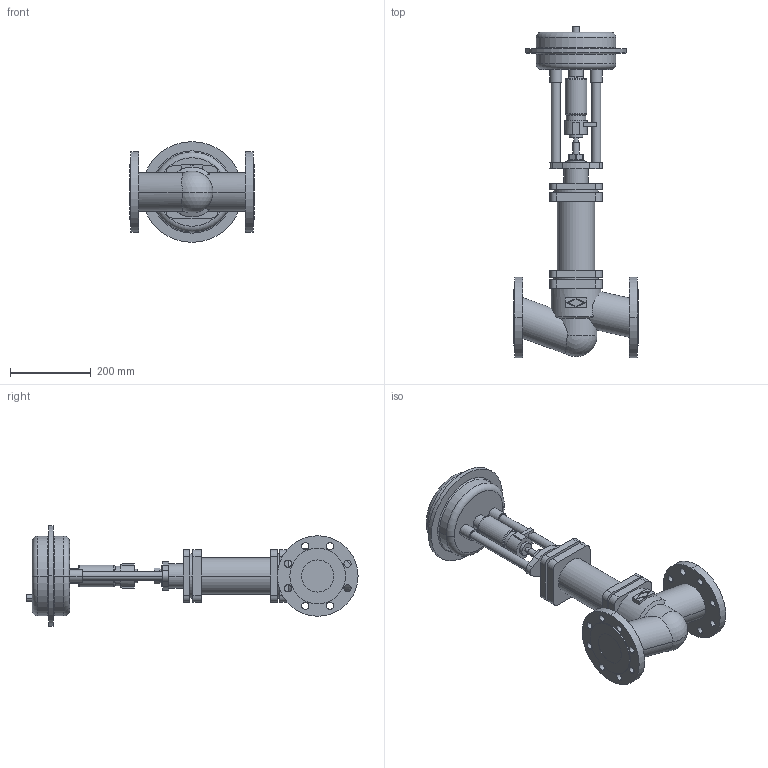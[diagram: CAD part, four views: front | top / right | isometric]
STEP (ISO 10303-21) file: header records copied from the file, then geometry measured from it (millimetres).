
FILE_DESCRIPTION(('OneSpaceDesigner STEP Export'),'2;1');
FILE_NAME('c000002087.stp','2005-12-12T11:49:12',(''),(''),'OneSpace Designer STEP processor for AP203 (Solid Model)','OneSpace Designer 13.20A 18-Aug-2005 (C) CoCreate Software GmbH','');
FILE_SCHEMA(('CONFIG_CONTROL_DESIGN'));
Length unit declared in the file: millimetre
Products named in the file (1): 1
Bounding box: 310 x 823.7 x 250 mm (x, y, z)
Volume: 10328153 mm3; surface area: 647177.2 mm2
Topology: 1 solids, 1 shells, 234 faces, 582 edges, 380 vertices
Faces by surface type: cylinder 120, plane 90, torus 16, cone 6, sphere 2
Entity records: 6638 total; most frequent: CARTESIAN_POINT 1324, ORIENTED_EDGE 1160, DIRECTION 989, EDGE_CURVE 580, VERTEX_POINT 380, AXIS2_PLACEMENT_3D 356, EDGE_LOOP 302, VECTOR 277
